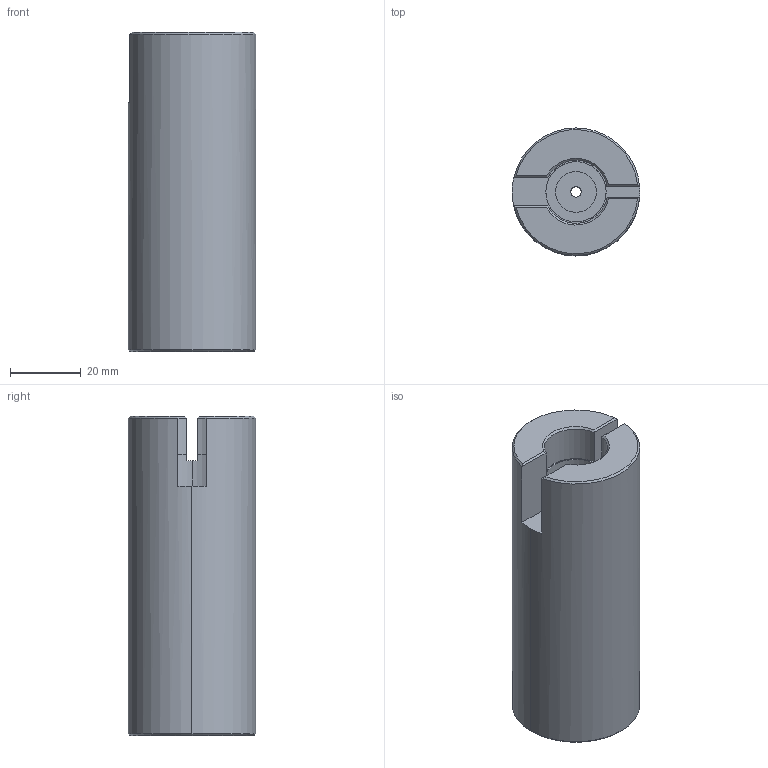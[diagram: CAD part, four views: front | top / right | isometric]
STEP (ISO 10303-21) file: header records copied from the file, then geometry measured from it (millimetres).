
FILE_DESCRIPTION(('CATIA V5 STEP Exchange'),'2;1');
FILE_NAME('C:\Users\hh\Desktop\阀体涂润滑脂治具\AGZ110 速降阀体治具\pdf+stp\AGZ110.01_V1.stp','2024-10-31T06:30:40+00:00',('none'),('none'),'CATIA Version 5 Release 21 GA (IN-10)','CATIA V5 STEP AP214','none');
FILE_SCHEMA(('AUTOMOTIVE_DESIGN { 1 0 10303 214 1 1 1 1 }'));
Length unit declared in the file: millimetre
Products named in the file (1): AGZ110.01_V1
Bounding box: 36 x 36 x 90 mm (x, y, z)
Volume: 78602.8 mm3; surface area: 14993.2 mm2
Topology: 1 solids, 1 shells, 36 faces, 86 edges, 54 vertices
Faces by surface type: plane 18, cylinder 12, cone 6
Entity records: 1011 total; most frequent: CARTESIAN_POINT 194, ORIENTED_EDGE 172, DIRECTION 136, EDGE_CURVE 86, AXIS2_PLACEMENT_3D 68, VERTEX_POINT 54, VECTOR 40, EDGE_LOOP 40
